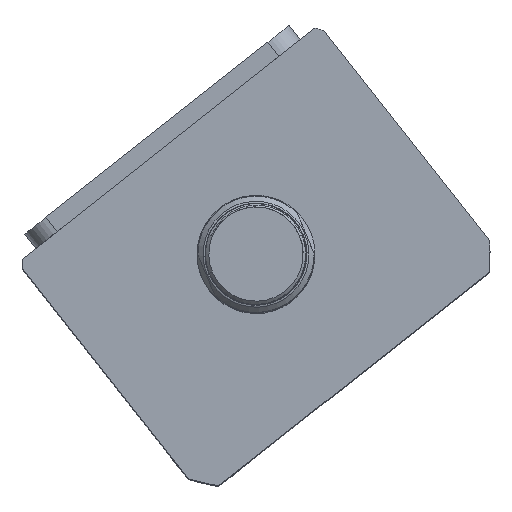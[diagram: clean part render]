
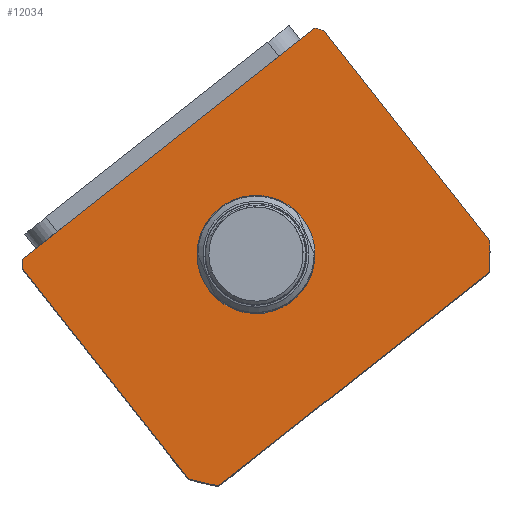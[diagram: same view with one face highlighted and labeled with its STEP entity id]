
A CAD part, top view. The second image highlights one B-rep face of the part: STEP entity #12034.
In plain terms, the highlighted planar face has unit normal (0, 0, 1) as drawn and (0, 0, -1) by its records, which use the part's own axes.
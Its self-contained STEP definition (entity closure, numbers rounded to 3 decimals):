
#107 = CARTESIAN_POINT ( 'NONE',  ( 0., 2.5, 0. ) ) ;
#864 = VERTEX_POINT ( 'NONE', #18053 ) ;
#2328 = DIRECTION ( 'NONE',  ( 1., 0., 0. ) ) ;
#2466 = FACE_BOUND ( 'NONE', #3327, .T. ) ;
#2982 = VERTEX_POINT ( 'NONE', #13612 ) ;
#3327 = EDGE_LOOP ( 'NONE', ( #14254, #16646 ) ) ;
#3602 = DIRECTION ( 'NONE',  ( 0., 0., 1. ) ) ;
#3731 = CARTESIAN_POINT ( 'NONE',  ( -57., 44.5, 0. ) ) ;
#3765 = CIRCLE ( 'NONE', #25584, 69.5 ) ;
#4494 = VECTOR ( 'NONE', #14111, 1000. ) ;
#4509 = VERTEX_POINT ( 'NONE', #16184 ) ;
#4696 = ORIENTED_EDGE ( 'NONE', *, *, #14748, .F. ) ;
#4960 = EDGE_CURVE ( 'NONE', #18109, #18979, #22578, .T. ) ;
#5209 = CIRCLE ( 'NONE', #27339, 69.5 ) ;
#5403 = AXIS2_PLACEMENT_3D ( 'NONE', #7020, #22245, #9242 ) ;
#6269 = CIRCLE ( 'NONE', #25884, 69.5 ) ;
#6835 = ORIENTED_EDGE ( 'NONE', *, *, #7829, .F. ) ;
#6948 = DIRECTION ( 'NONE',  ( 0., 1., 0. ) ) ;
#7020 = CARTESIAN_POINT ( 'NONE',  ( 0., 2.5, 0. ) ) ;
#7045 = CARTESIAN_POINT ( 'NONE',  ( 0., 2.5, 0. ) ) ;
#7097 = AXIS2_PLACEMENT_3D ( 'NONE', #107, #15464, #2328 ) ;
#7223 = CARTESIAN_POINT ( 'NONE',  ( 57., -37.265, 0. ) ) ;
#7829 = EDGE_CURVE ( 'NONE', #19886, #17131, #24378, .T. ) ;
#7867 = ORIENTED_EDGE ( 'NONE', *, *, #18406, .F. ) ;
#7937 = VECTOR ( 'NONE', #6948, 1000. ) ;
#8389 = CARTESIAN_POINT ( 'NONE',  ( 0., 2.5, 0. ) ) ;
#8678 = DIRECTION ( 'NONE',  ( 0., 0., 1. ) ) ;
#8791 = ORIENTED_EDGE ( 'NONE', *, *, #27610, .F. ) ;
#9242 = DIRECTION ( 'NONE',  ( 1., 0., 0. ) ) ;
#9268 = DIRECTION ( 'NONE',  ( 1., 0., 0. ) ) ;
#10572 = DIRECTION ( 'NONE',  ( 1., 0., 0. ) ) ;
#10929 = CARTESIAN_POINT ( 'NONE',  ( 57., 42.265, 0. ) ) ;
#11506 = ORIENTED_EDGE ( 'NONE', *, *, #25368, .F. ) ;
#11864 = CARTESIAN_POINT ( 'NONE',  ( 17.5, 2.5, 0. ) ) ;
#12034 = ADVANCED_FACE ( 'NONE', ( #2466, #13473 ), #17109, .F. ) ;
#12619 = AXIS2_PLACEMENT_3D ( 'NONE', #19393, #25841, #12951 ) ;
#12951 = DIRECTION ( 'NONE',  ( 1., 0., 0. ) ) ;
#13026 = LINE ( 'NONE', #26347, #19474 ) ;
#13473 = FACE_OUTER_BOUND ( 'NONE', #21466, .T. ) ;
#13612 = CARTESIAN_POINT ( 'NONE',  ( -57., -37.265, 0. ) ) ;
#14111 = DIRECTION ( 'NONE',  ( -1., 0., 0. ) ) ;
#14139 = CARTESIAN_POINT ( 'NONE',  ( 55.374, 44.5, 0. ) ) ;
#14254 = ORIENTED_EDGE ( 'NONE', *, *, #4960, .T. ) ;
#14387 = CIRCLE ( 'NONE', #21894, 17.5 ) ;
#14503 = CARTESIAN_POINT ( 'NONE',  ( 51.198, -44.5, 0. ) ) ;
#14748 = EDGE_CURVE ( 'NONE', #4509, #2982, #27536, .T. ) ;
#15039 = CARTESIAN_POINT ( 'NONE',  ( -17.5, 2.5, 0. ) ) ;
#15460 = VECTOR ( 'NONE', #19010, 1000. ) ;
#15464 = DIRECTION ( 'NONE',  ( 0., 0., 1. ) ) ;
#16184 = CARTESIAN_POINT ( 'NONE',  ( -57., 42.265, 0. ) ) ;
#16365 = VERTEX_POINT ( 'NONE', #18098 ) ;
#16646 = ORIENTED_EDGE ( 'NONE', *, *, #27578, .T. ) ;
#16706 = CARTESIAN_POINT ( 'NONE',  ( 0., 2.5, 0. ) ) ;
#16785 = LINE ( 'NONE', #18489, #4494 ) ;
#17109 = PLANE ( 'NONE',  #12619 ) ;
#17131 = VERTEX_POINT ( 'NONE', #7223 ) ;
#18053 = CARTESIAN_POINT ( 'NONE',  ( -55.374, 44.5, 0. ) ) ;
#18098 = CARTESIAN_POINT ( 'NONE',  ( -51.198, -44.5, 0. ) ) ;
#18109 = VERTEX_POINT ( 'NONE', #11864 ) ;
#18406 = EDGE_CURVE ( 'NONE', #2982, #16365, #6269, .T. ) ;
#18489 = CARTESIAN_POINT ( 'NONE',  ( -57., 44.5, 0. ) ) ;
#18889 = DIRECTION ( 'NONE',  ( 1., 0., 0. ) ) ;
#18979 = VERTEX_POINT ( 'NONE', #15039 ) ;
#19010 = DIRECTION ( 'NONE',  ( 0., -1., 0. ) ) ;
#19393 = CARTESIAN_POINT ( 'NONE',  ( 0., 0., 0. ) ) ;
#19474 = VECTOR ( 'NONE', #22131, 1000. ) ;
#19886 = VERTEX_POINT ( 'NONE', #14503 ) ;
#20080 = CARTESIAN_POINT ( 'NONE',  ( 57., 44.5, 0. ) ) ;
#20178 = LINE ( 'NONE', #20080, #7937 ) ;
#20992 = VERTEX_POINT ( 'NONE', #14139 ) ;
#21466 = EDGE_LOOP ( 'NONE', ( #11506, #8791, #6835, #27098, #7867, #4696, #28046, #25369 ) ) ;
#21700 = CARTESIAN_POINT ( 'NONE',  ( 0., 2.5, 0. ) ) ;
#21894 = AXIS2_PLACEMENT_3D ( 'NONE', #7045, #22270, #9268 ) ;
#22131 = DIRECTION ( 'NONE',  ( 1., 0., 0. ) ) ;
#22245 = DIRECTION ( 'NONE',  ( 0., 0., 1. ) ) ;
#22270 = DIRECTION ( 'NONE',  ( 0., 0., 1. ) ) ;
#22578 = CIRCLE ( 'NONE', #5403, 17.5 ) ;
#23418 = VERTEX_POINT ( 'NONE', #10929 ) ;
#23530 = DIRECTION ( 'NONE',  ( 0., 0., 1. ) ) ;
#23812 = DIRECTION ( 'NONE',  ( 1., 0., 0. ) ) ;
#24378 = CIRCLE ( 'NONE', #7097, 69.5 ) ;
#24856 = EDGE_CURVE ( 'NONE', #16365, #19886, #13026, .T. ) ;
#25368 = EDGE_CURVE ( 'NONE', #23418, #20992, #5209, .T. ) ;
#25369 = ORIENTED_EDGE ( 'NONE', *, *, #26966, .F. ) ;
#25584 = AXIS2_PLACEMENT_3D ( 'NONE', #16706, #3602, #18889 ) ;
#25841 = DIRECTION ( 'NONE',  ( 0., 0., 1. ) ) ;
#25884 = AXIS2_PLACEMENT_3D ( 'NONE', #8389, #23530, #10572 ) ;
#26347 = CARTESIAN_POINT ( 'NONE',  ( -57., -44.5, 0. ) ) ;
#26966 = EDGE_CURVE ( 'NONE', #20992, #864, #16785, .T. ) ;
#27098 = ORIENTED_EDGE ( 'NONE', *, *, #24856, .F. ) ;
#27339 = AXIS2_PLACEMENT_3D ( 'NONE', #21700, #8678, #23812 ) ;
#27536 = LINE ( 'NONE', #3731, #15460 ) ;
#27578 = EDGE_CURVE ( 'NONE', #18979, #18109, #14387, .T. ) ;
#27610 = EDGE_CURVE ( 'NONE', #17131, #23418, #20178, .T. ) ;
#28046 = ORIENTED_EDGE ( 'NONE', *, *, #28185, .F. ) ;
#28185 = EDGE_CURVE ( 'NONE', #864, #4509, #3765, .T. ) ;
